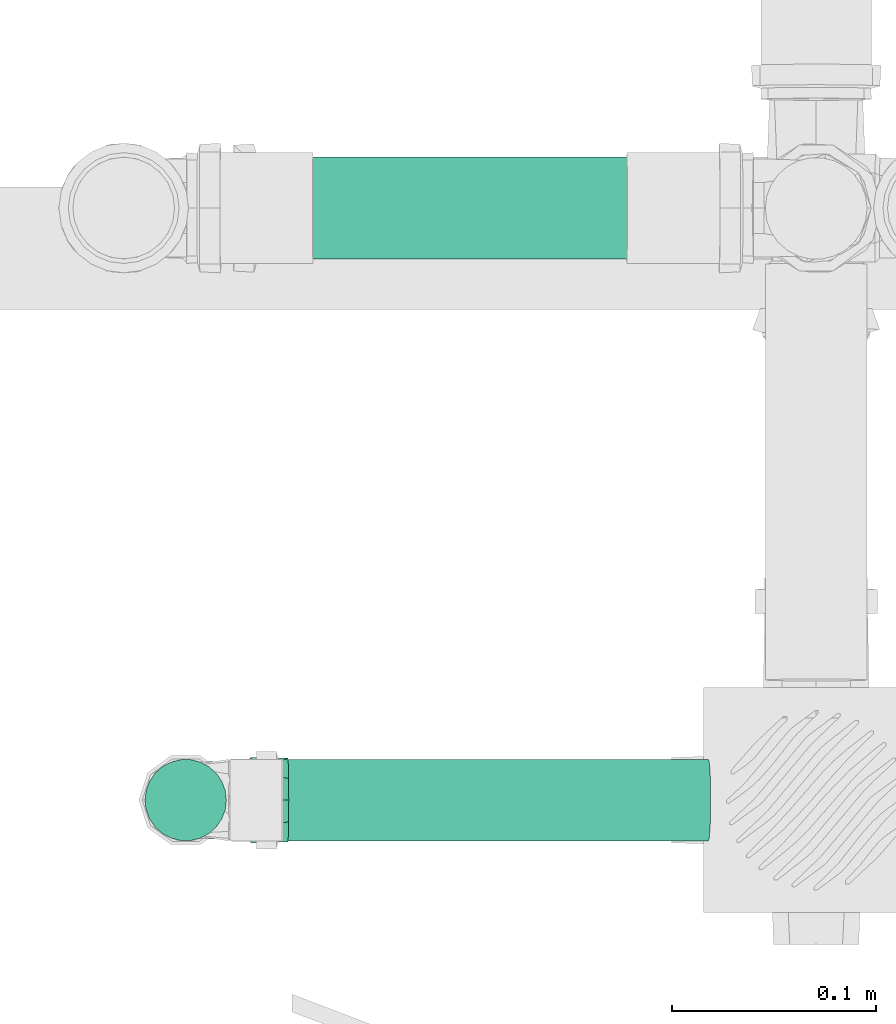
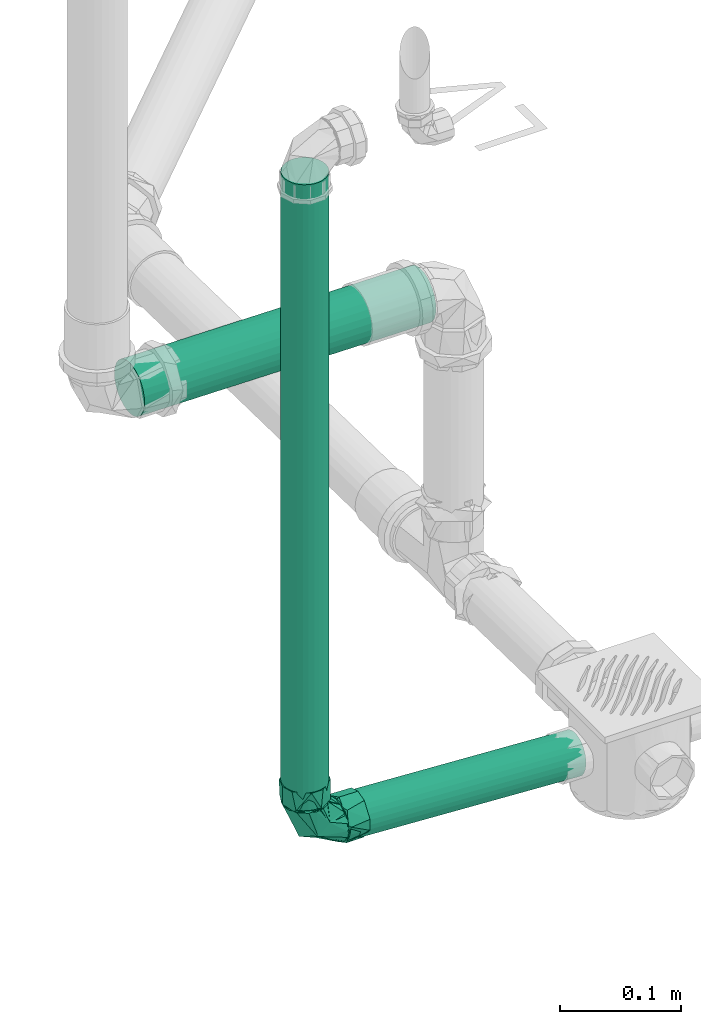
# One storey, part 115 of 589: 3 flow segments, 1 flow fitting.
"""IFC2X3 building model written with IfcOpenShell, lengths in millimetres."""

from ifc_helpers import new_model, entity, si_unit, converted_unit, derived_unit, direction, frame, frame_2d, origin, origin_2d_with_axis, place, context, subcontext, project, spatial, circle, extrude, faceted_brep, source, transform, mapped, material, type_object, type_shapes, element, save


model = new_model("IFC2X3")

# Units and contexts
model_context = context("Model", 3, precision=0.01, world=origin(), true_north=direction((6.123031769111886e-17, 1.0)))
body_context = subcontext(model_context, "Body", "Model", "MODEL_VIEW")
ifc_project = project(units=[si_unit("LENGTHUNIT", "METRE", prefix="MILLI"), si_unit("AREAUNIT", "SQUARE_METRE"), si_unit("VOLUMEUNIT", "CUBIC_METRE"), converted_unit("PLANEANGLEUNIT", "DEGREE", entity("IfcRatioMeasure", 0.017453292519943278), si_unit("PLANEANGLEUNIT", "RADIAN"), dimensions=[0, 0, 0, 0, 0, 0, 0]), si_unit("MASSUNIT", "GRAM", prefix="KILO"), derived_unit("MASSDENSITYUNIT", [(si_unit("MASSUNIT", "GRAM", prefix="KILO"), 1), (si_unit("LENGTHUNIT", "METRE"), -3)]), derived_unit("IONCONCENTRATIONUNIT", [(si_unit("MASSUNIT", "GRAM", prefix="KILO"), 1), (si_unit("LENGTHUNIT", "METRE"), -3)]), derived_unit("MOMENTOFINERTIAUNIT", [(si_unit("LENGTHUNIT", "METRE"), 4)]), si_unit("TIMEUNIT", "SECOND"), si_unit("FREQUENCYUNIT", "HERTZ"), si_unit("THERMODYNAMICTEMPERATUREUNIT", "DEGREE_CELSIUS"), derived_unit("THERMALTRANSMITTANCEUNIT", [(si_unit("MASSUNIT", "GRAM", prefix="KILO"), 1), (si_unit("THERMODYNAMICTEMPERATUREUNIT", "KELVIN"), -1), (si_unit("TIMEUNIT", "SECOND"), -3)]), derived_unit("THERMALCONDUCTANCEUNIT", [(si_unit("MASSUNIT", "GRAM", prefix="KILO"), 1), (si_unit("THERMODYNAMICTEMPERATUREUNIT", "KELVIN"), -1), (si_unit("TIMEUNIT", "SECOND"), -3), (si_unit("LENGTHUNIT", "METRE"), 1)]), derived_unit("VOLUMETRICFLOWRATEUNIT", [(si_unit("LENGTHUNIT", "METRE"), 3), (si_unit("TIMEUNIT", "SECOND"), -1)]), derived_unit("MASSFLOWRATEUNIT", [(si_unit("MASSUNIT", "GRAM", prefix="KILO"), 1), (si_unit("TIMEUNIT", "SECOND"), -1)]), derived_unit("ROTATIONALFREQUENCYUNIT", [(si_unit("TIMEUNIT", "SECOND"), -1)]), si_unit("ELECTRICCURRENTUNIT", "AMPERE"), si_unit("ELECTRICVOLTAGEUNIT", "VOLT"), si_unit("POWERUNIT", "WATT"), si_unit("FORCEUNIT", "NEWTON", prefix="KILO"), si_unit("ILLUMINANCEUNIT", "LUX"), si_unit("LUMINOUSFLUXUNIT", "LUMEN"), si_unit("LUMINOUSINTENSITYUNIT", "CANDELA"), derived_unit("USERDEFINED", [(si_unit("MASSUNIT", "GRAM", prefix="KILO"), -1), (si_unit("LENGTHUNIT", "METRE"), -2), (si_unit("TIMEUNIT", "SECOND"), 3), (si_unit("LUMINOUSFLUXUNIT", "LUMEN"), 1)]), derived_unit("USERDEFINED", [(si_unit("MASSUNIT", "GRAM", prefix="KILO"), 1), (si_unit("TIMEUNIT", "SECOND"), -3), (si_unit("LENGTHUNIT", "METRE"), 3), (si_unit("ELECTRICCURRENTUNIT", "AMPERE"), -2)]), derived_unit("SOUNDPOWERUNIT", [(si_unit("MASSUNIT", "GRAM", prefix="KILO"), 1), (si_unit("TIMEUNIT", "SECOND"), -3), (si_unit("LENGTHUNIT", "METRE"), 2)]), derived_unit("SOUNDPRESSUREUNIT", [(si_unit("MASSUNIT", "GRAM", prefix="KILO"), 1), (si_unit("LENGTHUNIT", "METRE"), -1), (si_unit("TIMEUNIT", "SECOND"), -2)]), derived_unit("LINEARVELOCITYUNIT", [(si_unit("LENGTHUNIT", "METRE"), 1), (si_unit("TIMEUNIT", "SECOND"), -1)]), si_unit("PRESSUREUNIT", "PASCAL"), derived_unit("USERDEFINED", [(si_unit("MASSUNIT", "GRAM", prefix="KILO"), 1), (si_unit("LENGTHUNIT", "METRE"), -2), (si_unit("TIMEUNIT", "SECOND"), -2)]), derived_unit("LINEARFORCEUNIT", [(si_unit("MASSUNIT", "GRAM", prefix="KILO"), 1), (si_unit("TIMEUNIT", "SECOND"), -2)]), derived_unit("PLANARFORCEUNIT", [(si_unit("MASSUNIT", "GRAM", prefix="KILO"), 1), (si_unit("LENGTHUNIT", "METRE"), -1), (si_unit("TIMEUNIT", "SECOND"), -2)]), derived_unit("SPECIFICHEATCAPACITYUNIT", [(si_unit("THERMODYNAMICTEMPERATUREUNIT", "KELVIN"), -1), (si_unit("LENGTHUNIT", "METRE"), 2), (si_unit("TIMEUNIT", "SECOND"), -2)]), derived_unit("HEATINGVALUEUNIT", [(si_unit("LENGTHUNIT", "METRE"), 2), (si_unit("TIMEUNIT", "SECOND"), -2)]), derived_unit("VAPORPERMEABILITYUNIT", [(si_unit("LENGTHUNIT", "METRE"), -1), (si_unit("TIMEUNIT", "SECOND"), 1)]), derived_unit("DYNAMICVISCOSITYUNIT", [(si_unit("MASSUNIT", "GRAM", prefix="KILO"), 1), (si_unit("TIMEUNIT", "SECOND"), -1), (si_unit("LENGTHUNIT", "METRE"), -1)]), derived_unit("THERMALEXPANSIONCOEFFICIENTUNIT", [(si_unit("THERMODYNAMICTEMPERATUREUNIT", "KELVIN"), -1)]), derived_unit("MODULUSOFELASTICITYUNIT", [(si_unit("MASSUNIT", "GRAM", prefix="KILO"), 1), (si_unit("LENGTHUNIT", "METRE"), -1), (si_unit("TIMEUNIT", "SECOND"), -2)]), derived_unit("ISOTHERMALMOISTURECAPACITYUNIT", [(si_unit("LENGTHUNIT", "METRE"), 3), (si_unit("MASSUNIT", "GRAM", prefix="KILO"), -1)]), derived_unit("MOISTUREDIFFUSIVITYUNIT", [(si_unit("TIMEUNIT", "SECOND"), -1), (si_unit("LENGTHUNIT", "METRE"), 2)])], contexts=[model_context])

# Site, building, storey
site_placement = place(None, origin())
site = spatial("IfcSite", under=ifc_project, at=site_placement, Name="Default", CompositionType="ELEMENT")
building_placement = place(site_placement, origin())
building = spatial("IfcBuilding", under=site, at=building_placement, CompositionType="ELEMENT")
storey_placement = place(building_placement, frame((0.0, 0.0, 100.0)))
storey = spatial("IfcBuildingStorey", under=building, at=storey_placement, Name="TÉRREO", CompositionType="ELEMENT", Elevation=100.0)

# Flow segments
pipe_segment_type = type_object("IfcPipeSegmentType", Name="Tipos de tubos:PVC Esgoto Série Normal", PredefinedType="NOTDEFINED")
flow_segment_1_placement = place(storey_placement, origin())
element("IfcFlowSegment", 1, at=flow_segment_1_placement, inside=storey, type_object=pipe_segment_type, Name="Tipos de tubos:PVC Esgoto Série Normal", ObjectType="Tipos de tubos:PVC Esgoto Série Normal", context=body_context, shape_type="SweptSolid", body=[
    extrude(circle(Radius=20.0, at=frame_2d((0.0, -1.6892953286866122e-14), x_axis=(1.0, 0.0))), frame((4643.552785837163, -799.8765311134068, -185.97473530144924), z_axis=(0.9984133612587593, 0.0, -0.056309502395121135), x_axis=(0.0, -1.0, 0.0)), (0.0, 0.0, 1.0), 224.83873082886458),
])
flow_segment_2_placement = place(storey_placement, origin())
element("IfcFlowSegment", 2, at=flow_segment_2_placement, inside=storey, type_object=pipe_segment_type, Name="Tipos de tubos:PVC Esgoto Série Normal", ObjectType="Tipos de tubos:PVC Esgoto Série Normal", context=body_context, shape_type="SweptSolid", body=[
    extrude(circle(Radius=20.0, at=origin_2d_with_axis()), frame((4611.353225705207, -799.8765311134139, -153.12474469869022)), (0.0, 0.0, 1.0), 631.3247446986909),
])
flow_segment_3_placement = place(storey_placement, origin())
element("IfcFlowSegment", 3, at=flow_segment_3_placement, inside=storey, type_object=pipe_segment_type, Name="Tipos de tubos:PVC Esgoto Série Normal", ObjectType="Tipos de tubos:PVC Esgoto Série Normal", context=body_context, shape_type="SweptSolid", body=[
    extrude(circle(Radius=25.0, at=frame_2d((6.767919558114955e-14, -3.383790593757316e-14), x_axis=(1.0, 0.0))), frame((4889.995025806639, -509.1682332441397, 80.30939753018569), z_axis=(-0.9999500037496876, 0.0, 0.009999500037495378), x_axis=(0.0, 1.0, 0.0)), (0.0, 0.0, 1.0), 278.1343996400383),
])

# Flow fitting
ifc_material = material(Name="PVC Branco")
pipe_fitting_type = type_object("IfcPipeFittingType", Name="PVC Esgoto_Curva 90° Curta:a. Série Normal", PredefinedType="NOTDEFINED", material=ifc_material)
shared_shape = source(origin(), body_context, "Body", "Brep", [
    faceted_brep([(17.961036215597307, 31.85321923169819, 10.0), (20.63999240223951, 31.79964010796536, 0.0), (17.961036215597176, 31.853219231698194, -10.0), (5.819337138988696, 32.09605321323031, -19.318516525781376), (-4.531354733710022, 32.30306705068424, -19.31851652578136), (-16.67305381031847, 32.545901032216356, -10.0), (-19.352009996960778, 32.59948015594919, 0.0), (-16.673053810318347, 32.54590103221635, 10.0), (-4.531354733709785, 32.303067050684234, 19.318516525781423), (5.819337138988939, 32.096053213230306, 19.318516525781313), (19.378093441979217, 29.02431814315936, 6.84041311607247), (15.905813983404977, 29.093763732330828, 12.855768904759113), (20.584003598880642, 29.000199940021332, 0.0), (7.427001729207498, 29.263339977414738, 18.793865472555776), (0.5880023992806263, 29.40011996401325, 20.0), (-12.265223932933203, 29.657184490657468, 15.320851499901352), (-18.202100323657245, 29.775922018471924, 6.840381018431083), (-19.407998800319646, 29.800039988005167, 0.0), (-6.251109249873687, 29.536902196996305, 18.79382458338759), (-18.202100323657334, 29.775922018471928, -6.840381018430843), (-14.729853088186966, 29.70647707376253, -12.855716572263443), (-6.25110924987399, 29.53690219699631, -18.79382458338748), (0.588002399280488, 29.40011996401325, -20.0), (13.441163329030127, 29.143056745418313, -15.32090639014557), (19.378093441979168, 29.02431814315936, -6.8404131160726), (7.427001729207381, 29.263339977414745, -18.79386547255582), (-11.35075352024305, -12.626805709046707, 0.0), (-29.405999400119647, -18.793848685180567, 6.8404131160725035), (-29.405999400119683, -19.396924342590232, 3.420206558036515), (-29.405999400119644, -20.0, 0.0), (-29.40599940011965, -15.320874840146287, 12.855768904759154), (-29.405999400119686, -17.057361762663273, 9.848091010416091), (-2.3339581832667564, 2.3811033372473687, 18.02101843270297), (-29.40599940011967, -6.840366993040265, 18.793865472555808), (-29.405999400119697, -11.080620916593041, 15.824817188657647), (-29.405999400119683, 0.0, 20.0), (-29.40599940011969, -3.420183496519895, 19.396932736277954), (-12.878045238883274, 13.138181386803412, 18.95216884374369), (12.851249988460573, 11.095996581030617, 0.0), (5.594072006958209, -5.707072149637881, 0.0), (-29.405999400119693, 6.840479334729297, 18.79382458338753), (-29.405999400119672, 3.4202396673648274, 19.396912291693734), (-29.405999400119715, 18.793860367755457, 6.840381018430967), (-29.405999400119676, 15.824828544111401, 11.080616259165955), (-29.405999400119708, 12.855796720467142, 15.320851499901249), (-22.405985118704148, 22.858585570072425, 0.0), (-29.40599940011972, 20.0, 0.0), (-29.405999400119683, 19.396930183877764, 3.4201905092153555), (-29.405999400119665, 9.848138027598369, 17.0573380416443), (-14.138248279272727, 14.423838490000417, -18.24666465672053), (-29.405999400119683, 0.0, -20.0), (-29.40599940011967, 3.4202396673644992, -19.396912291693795), (-29.405999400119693, 6.840479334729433, -18.79382458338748), (-29.405999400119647, -18.79384868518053, -6.840413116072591), (-29.40599940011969, -15.824789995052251, -11.080659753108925), (-29.405999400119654, -12.85573130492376, -15.32090639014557), (-2.333957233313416, 2.3811024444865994, -18.021017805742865), (-29.405999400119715, 18.793860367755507, -6.840381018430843), (-29.405999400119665, 11.080699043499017, -15.824770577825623), (-29.405999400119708, 15.320918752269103, -12.855716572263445), (-29.405999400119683, -19.396924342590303, -3.420206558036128), (-29.405999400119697, -9.848049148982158, -17.0573859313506), (-29.40599940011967, -6.840366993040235, -18.79386547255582), (-29.40599940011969, -3.420183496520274, -19.396932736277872), (-29.405999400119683, 19.39693018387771, -3.4201905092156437), (-29.405999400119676, 17.05738956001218, -9.848048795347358), (-30.20599940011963, -8.21241269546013, -16.988887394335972), (-30.20599940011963, -11.248444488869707, -14.659258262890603), (-30.20599940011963, -14.28447628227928, -12.329629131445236), (-30.20599940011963, -17.320508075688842, -10.0), (-30.20599940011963, -18.66025403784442, -5.0), (-30.20599940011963, -20.0, 0.0), (-30.20599940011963, -18.660254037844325, 5.0), (-30.20599940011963, -17.320508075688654, 10.0), (-30.20599940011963, -14.284476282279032, 12.329629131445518), (-30.20599940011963, -11.248444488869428, 14.659258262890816), (-30.20599940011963, -8.21241269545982, 16.988887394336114), (-30.20599940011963, -5.1763809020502, 19.318516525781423), (-30.20599940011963, 0.0, 19.31851652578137), (-30.20599940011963, 5.176380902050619, 19.318516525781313), (-30.20599940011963, 8.21241269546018, 16.98888739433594), (-30.20599940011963, 11.248444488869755, 14.65925826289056), (-30.205999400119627, 14.284476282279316, 12.329629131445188), (-30.20599940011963, 17.320508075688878, 10.0), (-30.20599940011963, 18.66025403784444, 5.0), (-30.20599940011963, 20.0, 0.0), (-30.20599940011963, 18.66025403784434, -5.0), (-30.20599940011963, 17.32050807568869, -10.0), (-30.20599940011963, 14.284476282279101, -12.329629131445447), (-30.20599940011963, 11.24844448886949, -14.659258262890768), (-30.20599940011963, 8.212412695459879, -16.988887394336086), (-30.20599940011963, 5.1763809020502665, -19.318516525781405), (-30.20599940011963, 0.0, -19.318516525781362), (-30.20599940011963, -5.176380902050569, -19.318516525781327)], [[[0, 1, 2, 3, 4, 5, 6, 7, 8, 9]], [[10, 1, 0]], [[11, 0, 9]], [[12, 1, 10]], [[11, 10, 0]], [[13, 11, 9]], [[9, 14, 13]], [[15, 8, 7]], [[7, 6, 16]], [[17, 16, 6]], [[14, 8, 18]], [[15, 18, 8]], [[16, 15, 7]], [[8, 14, 9]], [[19, 6, 5]], [[20, 5, 4]], [[17, 6, 19]], [[20, 19, 5]], [[21, 20, 4]], [[4, 22, 21]], [[23, 3, 2]], [[2, 1, 24]], [[12, 24, 1]], [[22, 3, 25]], [[23, 25, 3]], [[24, 23, 2]], [[3, 22, 4]], [[26, 27, 28, 29]], [[26, 30, 31, 27]], [[32, 33, 34, 30]], [[32, 35, 36, 33]], [[35, 32, 37]], [[11, 38, 10]], [[26, 32, 30]], [[32, 39, 38]], [[37, 40, 41, 35]], [[37, 42, 43, 44]], [[45, 46, 47, 42]], [[16, 45, 42]], [[37, 44, 48, 40]], [[39, 32, 26]], [[14, 18, 37]], [[32, 11, 13]], [[14, 37, 32]], [[32, 38, 11]], [[12, 10, 38]], [[45, 16, 17]], [[37, 15, 16]], [[37, 16, 42]], [[15, 37, 18]], [[32, 13, 14]], [[49, 50, 51, 52]], [[49, 21, 22]], [[26, 53, 54, 55]], [[56, 39, 26]], [[49, 57, 19]], [[49, 52, 58, 59]], [[56, 50, 49]], [[26, 29, 60, 53]], [[56, 55, 61, 62]], [[56, 62, 63, 50]], [[26, 55, 56]], [[45, 57, 64, 46]], [[45, 17, 19]], [[24, 12, 38]], [[23, 56, 25]], [[49, 20, 21]], [[49, 19, 20]], [[56, 49, 22]], [[56, 23, 38]], [[49, 59, 65, 57]], [[38, 39, 56]], [[24, 38, 23]], [[56, 22, 25]], [[19, 57, 45]], [[66, 67, 68, 69, 70, 71, 72, 73, 74, 75, 76, 77, 78, 79, 80, 81, 82, 83, 84, 85, 86, 87, 88, 89, 90, 91, 92, 93]], [[47, 46, 85]], [[33, 77, 76]], [[80, 40, 48]], [[48, 44, 81]], [[33, 76, 34]], [[81, 80, 48]], [[84, 83, 42]], [[82, 81, 44]], [[73, 72, 27]], [[85, 84, 47]], [[78, 41, 79]], [[77, 36, 78]], [[30, 75, 74, 73]], [[73, 27, 31, 30]], [[77, 33, 36]], [[71, 28, 72]], [[44, 43, 82]], [[36, 35, 78]], [[41, 40, 79]], [[34, 76, 75]], [[43, 42, 83]], [[75, 30, 34]], [[41, 78, 35]], [[84, 42, 47]], [[80, 79, 40]], [[43, 83, 82]], [[28, 71, 29]], [[28, 27, 72]], [[60, 29, 71]], [[52, 91, 90]], [[66, 62, 61]], [[61, 55, 67]], [[52, 90, 58]], [[67, 66, 61]], [[70, 69, 53]], [[68, 67, 55]], [[87, 86, 57]], [[71, 70, 60]], [[92, 63, 93]], [[91, 51, 92]], [[59, 89, 88, 87]], [[87, 57, 65, 59]], [[91, 52, 51]], [[85, 64, 86]], [[55, 54, 68]], [[51, 50, 92]], [[63, 62, 93]], [[90, 89, 58]], [[54, 53, 69]], [[89, 59, 58]], [[63, 92, 50]], [[70, 53, 60]], [[66, 93, 62]], [[54, 69, 68]], [[64, 85, 46]], [[64, 57, 86]]]),
    faceted_brep([(-32.20599940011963, -17.320508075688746, -10.0), (-32.20599940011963, -20.0, 0.0), (-32.20599940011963, -17.320508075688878, 10.0), (-32.20599940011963, -5.176380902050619, 19.318516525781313), (-32.20599940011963, 5.1763809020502, 19.318516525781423), (-32.20599940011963, 17.320508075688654, 10.0), (-32.20599940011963, 20.0, 0.0), (-32.20599940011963, 17.320508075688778, -10.0), (-32.20599940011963, 5.17638090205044, -19.31851652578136), (-32.20599940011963, -5.176380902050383, -19.318516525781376), (-29.40599940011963, -20.0, 0.0), (-29.40599940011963, -15.320920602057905, 12.855714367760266), (-29.40599940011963, 3.4728419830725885, 19.696176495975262), (-29.40599940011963, 15.320777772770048, 12.855884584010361), (-29.40599940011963, 20.0, 0.0), (-29.40599940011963, 15.320777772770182, -12.855884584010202), (-29.405999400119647, 5.923858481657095, -16.27601124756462), (-29.40599940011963, -3.473060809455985, -19.69613791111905), (-29.40599940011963, -15.320920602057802, -12.855714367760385), (12.85124998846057, 11.095996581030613, 0.0), (19.378093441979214, 29.024318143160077, 6.8404131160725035), (16.409628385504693, 29.083687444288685, 11.080659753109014), (13.441163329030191, 29.143056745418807, 15.320906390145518), (5.594072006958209, -5.707072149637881, 0.0), (-3.0189256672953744, 1.4413580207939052, 17.919138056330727), (-11.350753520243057, -12.626805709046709, 0.0), (-13.807968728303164, 12.593198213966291, 18.87014454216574), (-6.251109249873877, 29.53690219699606, 18.793824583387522), (-10.490481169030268, 29.621689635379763, 15.824770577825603), (-14.729853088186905, 29.70647707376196, 12.855716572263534), (-22.405985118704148, 22.858585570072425, 0.0), (-18.20210032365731, 29.775922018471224, 6.84038101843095), (-18.805049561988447, 29.787981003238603, 3.4201905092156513), (-19.407998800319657, 29.80003998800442, 0.0), (7.427001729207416, 29.26333997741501, 18.793865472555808), (4.007502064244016, 29.331729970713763, 19.396932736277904), (0.5880023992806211, 29.400119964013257, 20.0), (10.434082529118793, 29.203198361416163, 17.057385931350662), (20.58400359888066, 29.000199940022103, 0.0), (19.981048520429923, 29.012259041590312, 3.420206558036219), (-2.8315534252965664, 29.46851108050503, 19.396912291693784), (-16.465976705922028, 29.74119954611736, 9.84804879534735), (-12.878069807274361, 13.13814230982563, -18.95217245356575), (-12.265223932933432, 29.657184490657, -15.32085149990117), (-9.258166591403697, 29.59704334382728, -17.057338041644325), (-6.251109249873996, 29.53690219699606, -18.79382458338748), (-18.202100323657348, 29.775922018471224, -6.840381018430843), (-2.142006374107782, 2.6554433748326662, -18.049846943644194), (-18.80504956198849, 29.787981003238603, -3.4201905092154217), (-15.233662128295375, 29.716553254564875, -11.080616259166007), (19.378093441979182, 29.02431814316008, -6.840413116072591), (19.981048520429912, 29.012259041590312, -3.4202065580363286), (0.5880023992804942, 29.400119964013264, -20.0), (4.0075020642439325, 29.331729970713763, -19.396932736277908), (7.427001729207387, 29.26333997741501, -18.79386547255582), (11.666407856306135, 29.178551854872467, -15.824817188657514), (15.905813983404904, 29.09376373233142, -12.855768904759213), (17.64195371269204, 29.05904093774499, -9.8480910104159), (-2.831553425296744, 29.46851108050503, -19.39691229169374), (-4.571346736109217, 30.303466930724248, -19.31851652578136), (-7.60677150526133, 30.364175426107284, -16.988887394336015), (-10.64219627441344, 30.424883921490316, -14.659258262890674), (-13.677621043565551, 30.48559241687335, -12.329629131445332), (-16.713045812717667, 30.54630091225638, -10.0), (-18.052523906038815, 30.573090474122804, -5.0), (-19.392001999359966, 30.599880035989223, 0.0), (-18.052523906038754, 30.573090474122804, 5.0), (-16.71304581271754, 30.54630091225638, 10.0), (-13.67762104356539, 30.48559241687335, 12.329629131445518), (-10.642196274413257, 30.424883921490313, 14.659258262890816), (-7.606771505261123, 30.364175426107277, 16.988887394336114), (-4.571346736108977, 30.303466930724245, 19.318516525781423), (0.6039992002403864, 30.199960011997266, 19.31851652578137), (5.779345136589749, 30.096453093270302, 19.318516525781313), (8.814769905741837, 30.035744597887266, 16.98888739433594), (11.85019467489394, 29.975036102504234, 14.65925826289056), (14.885619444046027, 29.9143276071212, 12.329629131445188), (17.92104421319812, 29.853619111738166, 10.0), (19.26052230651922, 29.82682954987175, 5.0), (20.60000039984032, 29.80003998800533, 0.0), (19.260522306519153, 29.82682954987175, -5.0), (17.921044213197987, 29.85361911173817, -10.0), (14.885619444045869, 29.914327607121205, -12.329629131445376), (11.850194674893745, 29.975036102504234, -14.659258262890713), (8.814769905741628, 30.03574459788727, -16.988887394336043), (5.779345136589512, 30.096453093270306, -19.318516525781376), (0.6039992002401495, 30.199960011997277, -19.31851652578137)], [[[0, 1, 2, 3, 4, 5, 6, 7, 8, 9]], [[10, 11, 2]], [[10, 2, 1]], [[2, 11, 3]], [[11, 12, 3]], [[4, 12, 13]], [[5, 13, 14]], [[13, 5, 4]], [[5, 14, 6]], [[12, 4, 3]], [[14, 15, 7]], [[14, 7, 6]], [[7, 15, 8]], [[8, 15, 16, 17]], [[9, 17, 18]], [[0, 18, 10]], [[18, 0, 9]], [[0, 10, 1]], [[17, 9, 8]], [[19, 20, 21, 22]], [[23, 24, 25]], [[26, 13, 12]], [[25, 24, 11]], [[24, 23, 19]], [[26, 27, 28, 29]], [[14, 13, 30]], [[11, 10, 25]], [[30, 31, 32, 33]], [[31, 30, 13]], [[24, 34, 35, 36]], [[24, 26, 12]], [[24, 22, 37, 34]], [[11, 24, 12]], [[19, 38, 39, 20]], [[26, 36, 40, 27]], [[13, 29, 41, 31]], [[13, 26, 29]], [[36, 26, 24]], [[22, 24, 19]], [[15, 14, 30]], [[42, 43, 44, 45]], [[15, 30, 46]], [[16, 15, 42, 17]], [[47, 25, 18]], [[47, 18, 17]], [[42, 15, 46]], [[30, 33, 48, 46]], [[42, 46, 49, 43]], [[19, 50, 51, 38]], [[47, 52, 53, 54]], [[47, 54, 55, 56]], [[42, 52, 47]], [[19, 56, 57, 50]], [[25, 47, 23]], [[19, 23, 47]], [[25, 10, 18]], [[19, 47, 56]], [[17, 42, 47]], [[42, 45, 58, 52]], [[59, 60, 61, 62, 63, 64, 65, 66, 67, 68, 69, 70, 71, 72, 73, 74, 75, 76, 77, 78, 79, 80, 81, 82, 83, 84, 85, 86]], [[39, 38, 79]], [[21, 77, 76]], [[74, 34, 37]], [[37, 22, 75]], [[79, 78, 39]], [[75, 74, 37]], [[74, 73, 34]], [[76, 75, 22]], [[22, 21, 76]], [[78, 77, 20]], [[72, 35, 73]], [[27, 70, 28]], [[29, 69, 68, 67]], [[67, 31, 41, 29]], [[71, 27, 40]], [[65, 32, 66]], [[71, 40, 72]], [[40, 36, 72]], [[67, 66, 31]], [[28, 70, 69]], [[35, 34, 73]], [[69, 29, 28]], [[35, 72, 36]], [[78, 20, 39]], [[21, 20, 77]], [[27, 71, 70]], [[32, 65, 33]], [[32, 31, 66]], [[48, 33, 65]], [[54, 85, 84]], [[60, 45, 44]], [[44, 43, 61]], [[54, 84, 55]], [[61, 60, 44]], [[64, 63, 46]], [[62, 61, 43]], [[81, 80, 50]], [[65, 64, 48]], [[86, 58, 59]], [[85, 53, 86]], [[56, 83, 82, 81]], [[81, 50, 57, 56]], [[85, 54, 53]], [[79, 51, 80]], [[43, 49, 62]], [[53, 52, 86]], [[58, 45, 59]], [[55, 84, 83]], [[49, 46, 63]], [[83, 56, 55]], [[58, 86, 52]], [[64, 46, 48]], [[60, 59, 45]], [[49, 63, 62]], [[51, 79, 38]], [[51, 50, 80]]]),
    faceted_brep([(5.819337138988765, 32.09605321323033, 19.31851652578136), (17.961036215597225, 31.853219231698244, 10.0), (20.63999240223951, 31.799640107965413, 0.0), (17.96103621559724, 31.853219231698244, -10.0), (5.8193371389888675, 32.09605321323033, -19.318516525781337), (-4.531354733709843, 32.30306705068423, -19.31851652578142), (-16.67305381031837, 32.54590103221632, -10.0), (-19.352009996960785, 32.59948015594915, 0.0), (-16.673053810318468, 32.54590103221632, 10.0), (-4.531354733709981, 32.303067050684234, 19.318516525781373), (-4.571346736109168, 30.303466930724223, 19.318516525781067), (-16.713045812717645, 30.54630091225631, 10.0), (-19.39200199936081, 30.599880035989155, 0.0), (-16.713045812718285, 30.546300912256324, -10.0), (-4.571346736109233, 30.303466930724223, -19.318516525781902), (5.779345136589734, 30.096453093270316, -19.31851652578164), (17.92104421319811, 29.853619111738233, -10.0), (20.60000039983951, 29.800039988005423, 0.0), (17.92104421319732, 29.853619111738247, 10.0), (5.779345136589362, 30.096453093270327, 19.31851652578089), (16.960145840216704, 31.873237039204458, -13.688192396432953), (21.93973248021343, 31.77364530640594, 0.0), (4.344880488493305, 32.12554234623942, -20.97588948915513), (-20.651750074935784, 32.625474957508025, 0.0), (-15.668729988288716, 32.52581455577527, -13.692285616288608), (-5.661924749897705, 32.32567845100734, -17.33408755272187), (-15.668729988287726, 32.52581455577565, 13.69228561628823), (-3.0516373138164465, 32.27347270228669, 20.976817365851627), (16.960145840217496, 31.87323703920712, 13.688192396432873), (6.954254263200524, 32.073354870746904, 17.332504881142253), (-4.507824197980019, 50.30619608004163, -20.574220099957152), (-4.171426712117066, 50.29946813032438, -19.318516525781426), (6.1792651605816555, 50.09245429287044, -19.318516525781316), (-17.438733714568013, 50.56481427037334, -10.649999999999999), (6.515662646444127, 50.0857263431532, -20.57422009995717), (-16.31312578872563, 50.54230211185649, -10.0), (-18.99208197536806, 50.59588123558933, 0.0), (-20.29182205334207, 50.62187603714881, 0.0), (-16.313125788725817, 50.54230211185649, 10.0), (-17.438733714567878, 50.56481427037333, 10.650000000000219), (-4.1714267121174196, 50.29946813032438, 19.318516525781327), (-4.5078241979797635, 50.30619608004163, 20.574220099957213), (6.179265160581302, 50.09245429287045, 19.3185165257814), (6.515662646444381, 50.08572634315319, 20.574220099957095), (18.320964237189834, 49.84962031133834, 10.0), (19.446572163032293, 49.827108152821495, 10.649999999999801), (22.299660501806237, 49.770046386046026, 0.0), (20.99992042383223, 49.796041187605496, 0.0), (19.44657216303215, 49.8271081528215, -10.650000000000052), (18.320964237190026, 49.84962031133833, -10.0)], [[[0, 1, 2, 3, 4, 5, 6, 7, 8, 9]], [[10, 11, 12, 13, 14, 15, 16, 17, 18, 19]], [[16, 15, 20]], [[17, 16, 21]], [[21, 16, 20]], [[15, 22, 20]], [[23, 13, 12]], [[24, 14, 13]], [[15, 14, 22]], [[23, 24, 13]], [[25, 22, 14, 24]], [[11, 10, 26]], [[12, 11, 23]], [[23, 11, 26]], [[10, 27, 26]], [[21, 18, 17]], [[28, 19, 18]], [[10, 19, 27]], [[21, 28, 18]], [[29, 27, 19, 28]], [[30, 31, 32]], [[31, 30, 33]], [[32, 34, 30]], [[33, 35, 31]], [[33, 36, 35]], [[36, 33, 37]], [[38, 36, 37]], [[38, 37, 39]], [[39, 40, 38]], [[39, 41, 40]], [[40, 41, 42]], [[43, 42, 41]], [[43, 44, 42]], [[44, 43, 45]], [[46, 44, 45]], [[47, 44, 46]], [[48, 47, 46]], [[48, 49, 47]], [[49, 48, 34]], [[34, 32, 49]], [[46, 45, 21]], [[45, 28, 21]], [[28, 45, 43]], [[43, 27, 29, 28]], [[26, 41, 39]], [[23, 39, 37]], [[41, 26, 27]], [[26, 39, 23]], [[41, 27, 43]], [[37, 33, 23]], [[33, 24, 23]], [[24, 33, 30]], [[30, 22, 25, 24]], [[20, 34, 48]], [[21, 48, 46]], [[34, 20, 22]], [[20, 48, 21]], [[34, 22, 30]], [[3, 2, 47, 49]], [[4, 3, 49, 32]], [[32, 31, 5, 4]], [[6, 5, 31, 35]], [[7, 6, 35, 36]], [[8, 7, 36, 38]], [[9, 8, 38, 40]], [[40, 42, 0, 9]], [[1, 0, 42, 44]], [[2, 1, 44, 47]]]),
    faceted_brep([(-50.20599940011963, -5.512845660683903, -20.574220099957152), (-50.20599940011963, -5.176380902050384, -19.318516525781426), (-50.20599940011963, 5.176380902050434, -19.318516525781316), (-50.20599940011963, -18.446341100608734, -10.649999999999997), (-50.20599940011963, 5.512845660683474, -20.57422009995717), (-50.20599940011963, -17.320508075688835, -10.0), (-50.20599940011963, -20.0, 0.0), (-50.20599940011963, -21.300000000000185, 0.0), (-50.20599940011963, -17.320508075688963, 10.0), (-50.20599940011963, -18.4463411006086, 10.650000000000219), (-50.20599940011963, -5.176380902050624, 19.318516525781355), (-50.20599940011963, -5.512845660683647, 20.574220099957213), (-50.20599940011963, 5.176380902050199, 19.318516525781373), (-50.20599940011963, 5.512845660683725, 20.574220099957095), (-50.20599940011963, 17.320508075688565, 10.0), (-50.20599940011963, 18.44634110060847, 10.649999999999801), (-50.20599940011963, 21.299999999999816, 0.0), (-50.20599940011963, 20.0, 0.0), (-50.20599940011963, 18.446341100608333, -10.650000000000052), (-50.20599940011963, 17.320508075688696, -10.0), (-32.20599940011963, 21.299999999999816, 0.0), (-32.205999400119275, 16.319417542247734, 13.688192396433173), (-32.205999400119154, 3.701629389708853, 20.975889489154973), (-32.20599940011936, -16.315983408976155, 13.692285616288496), (-32.20599940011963, -21.300000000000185, 0.0), (-32.20599940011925, -6.307177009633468, 17.334087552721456), (-32.20599940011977, -16.31598340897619, -13.692285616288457), (-32.20599940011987, -3.6963675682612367, -20.976817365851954), (-32.2059994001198, 16.319417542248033, -13.688192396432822), (-32.20599940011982, 6.311524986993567, -17.332504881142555), (-32.20599940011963, -5.176380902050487, 19.31851652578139), (-32.20599940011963, 5.176380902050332, 19.318516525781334), (-32.20599940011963, 17.320508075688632, 10.0), (-32.20599940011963, 20.0, 0.0), (-32.20599940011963, 17.320508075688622, -10.0), (-32.20599940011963, 5.176380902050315, -19.318516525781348), (-32.20599940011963, -5.1763809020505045, -19.318516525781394), (-32.20599940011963, -17.3205080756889, -10.0), (-32.20599940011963, -20.0, 0.0), (-32.20599940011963, -17.32050807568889, 10.0), (-30.20599940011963, -5.176380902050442, 19.31851652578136), (-30.20599940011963, -17.320508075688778, 10.0), (-30.20599940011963, -20.0, 0.0), (-30.20599940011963, -17.320508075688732, -10.0), (-30.20599940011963, -5.176380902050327, -19.318516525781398), (-30.20599940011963, 5.176380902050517, -19.318516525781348), (-30.20599940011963, 17.320508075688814, -10.0), (-30.20599940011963, 20.0, 0.0), (-30.20599940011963, 17.320508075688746, 10.0), (-30.20599940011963, 5.176380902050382, 19.318516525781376)], [[[0, 1, 2]], [[1, 0, 3]], [[2, 4, 0]], [[3, 5, 1]], [[3, 6, 5]], [[6, 3, 7]], [[8, 6, 7]], [[8, 7, 9]], [[9, 10, 8]], [[9, 11, 10]], [[10, 11, 12]], [[13, 12, 11]], [[13, 14, 12]], [[14, 13, 15]], [[16, 14, 15]], [[17, 14, 16]], [[18, 17, 16]], [[18, 19, 17]], [[19, 18, 4]], [[4, 2, 19]], [[16, 15, 20]], [[15, 21, 20]], [[21, 15, 13]], [[21, 13, 22]], [[23, 11, 9]], [[24, 9, 7]], [[11, 23, 25, 22]], [[23, 9, 24]], [[11, 22, 13]], [[7, 3, 24]], [[3, 26, 24]], [[26, 3, 0]], [[26, 0, 27]], [[28, 4, 18]], [[20, 18, 16]], [[4, 28, 29, 27]], [[28, 18, 20]], [[4, 27, 0]], [[30, 31, 32, 33, 34, 35, 36, 37, 38, 39]], [[40, 41, 42, 43, 44, 45, 46, 47, 48, 49]], [[45, 28, 46]], [[47, 46, 20]], [[20, 46, 28]], [[27, 45, 44]], [[26, 44, 43]], [[24, 43, 42]], [[45, 27, 29, 28]], [[26, 27, 44]], [[24, 26, 43]], [[40, 23, 41]], [[42, 41, 24]], [[24, 41, 23]], [[22, 40, 49]], [[21, 49, 48]], [[20, 48, 47]], [[40, 22, 25, 23]], [[21, 22, 49]], [[20, 21, 48]], [[34, 33, 17, 19]], [[35, 34, 19, 2]], [[2, 1, 36, 35]], [[37, 36, 1, 5]], [[38, 37, 5, 6]], [[39, 38, 6, 8]], [[30, 39, 8, 10]], [[10, 12, 31, 30]], [[32, 31, 12, 14]], [[33, 32, 14, 17]]]),
])
type_shapes(pipe_fitting_type, [shared_shape])
flow_fitting_placement = place(storey_placement, frame((4611.353225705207, -799.8765311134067, -185.33074409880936), z_axis=(0.0, -1.0, 0.0), x_axis=(0.0, 0.0, -1.0)))
element("IfcFlowFitting", 4, at=flow_fitting_placement, inside=storey, type_object=pipe_fitting_type, material=ifc_material, Name="PVC Esgoto_Curva 90° Curta:a. Série Normal", ObjectType="PVC Esgoto_Curva 90° Curta:a. Série Normal", context=body_context, shape_type="MappedRepresentation", body=[
    mapped(shared_shape, transform((0.0, 0.0, 0.0), scale=1.0)),
])

save(model, "model.ifc")
